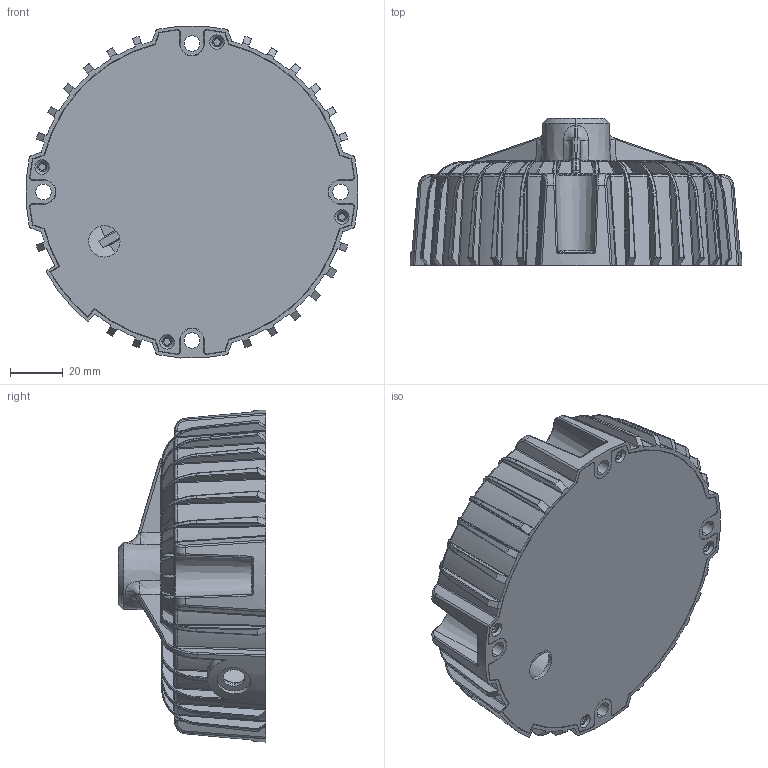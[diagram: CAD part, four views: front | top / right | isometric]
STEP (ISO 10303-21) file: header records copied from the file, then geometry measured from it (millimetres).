
FILE_DESCRIPTION((''),'2;1');
FILE_NAME('XBG-100-AB_ASM','2020-03-16T17:24:26',('shalinice'),(''),'CREO PARAMETRIC BY PTC INC, 2016390','CREO PARAMETRIC BY PTC INC, 2016390','');
FILE_SCHEMA(('AUTOMOTIVE_DESIGN { 1 0 10303 214 1 1 1 1 }'));
Length unit declared in the file: millimetre
Products named in the file (4): 00; XBG-100_ASM_27_ASM; XBG-100-AB_ASM
Assembly tree (3 placements, depth 3):
  XBG-100-AB_ASM
    XBG-100_ASM_27_ASM
      00
      00
Bounding box: 126.31 x 56 x 126.31 mm (x, y, z)
Volume: 90525.6 mm3; surface area: 82219.3 mm2
Topology: 2 solids, 2 shells, 1801 faces, 4707 edges, 2830 vertices
Faces by surface type: bspline 618, cylinder 434, plane 281, cone 190, torus 163, extrusion 58, revolution 43, sphere 14
Entity records: 74096 total; most frequent: CARTESIAN_POINT 36137, ORIENTED_EDGE 9228, DIRECTION 6014, EDGE_CURVE 4614, VERTEX_POINT 2830, AXIS2_PLACEMENT_3D 2428, B_SPLINE_CURVE_WITH_KNOTS 2321, EDGE_LOOP 1838
